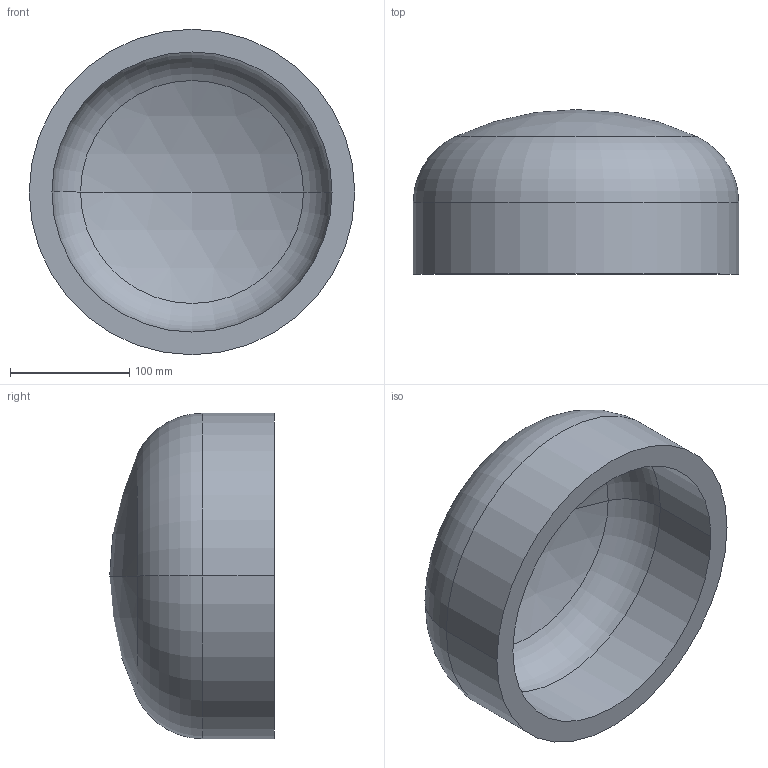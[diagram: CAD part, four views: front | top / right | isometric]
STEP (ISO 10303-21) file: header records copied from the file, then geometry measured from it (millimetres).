
FILE_DESCRIPTION (( 'STEP AP203' ), '1' );
FILE_NAME ('DIN 28013 Korbbogenform_-_Boden DIN 28013 - 273 x 60 - I - s=19.step', '2016-07-01T07:43:22', ( '' ), ( '' ), 'SwSTEP 2.0', 'SolidWorks 2013', '' );
FILE_SCHEMA (( 'CONFIG_CONTROL_DESIGN' ));
Length unit declared in the file: millimetre
Products named in the file (1): DIN 28013 Korbbogenform_-_Boden DIN 28013 - 273 x 60 - I - s=19
Bounding box: 273 x 138.02 x 273 mm (x, y, z)
Volume: 2320003.9 mm3; surface area: 260128.3 mm2
Topology: 1 solids, 1 shells, 13 faces, 24 edges, 14 vertices
Faces by surface type: torus 4, cylinder 4, sphere 4, plane 1
Entity records: 407 total; most frequent: DIRECTION 72, CARTESIAN_POINT 52, ORIENTED_EDGE 48, AXIS2_PLACEMENT_3D 34, EDGE_CURVE 24, CIRCLE 20, VERTEX_POINT 14, EDGE_LOOP 14
